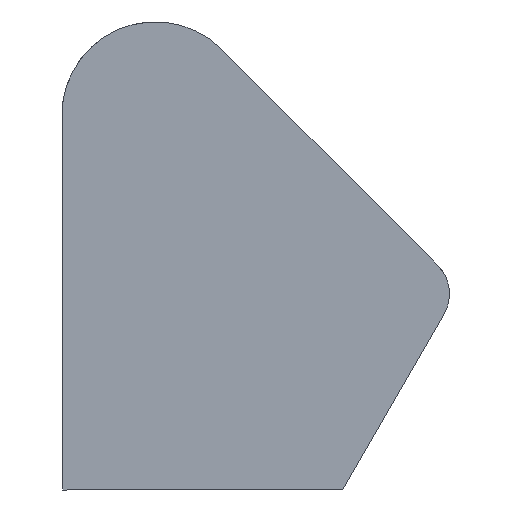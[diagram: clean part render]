
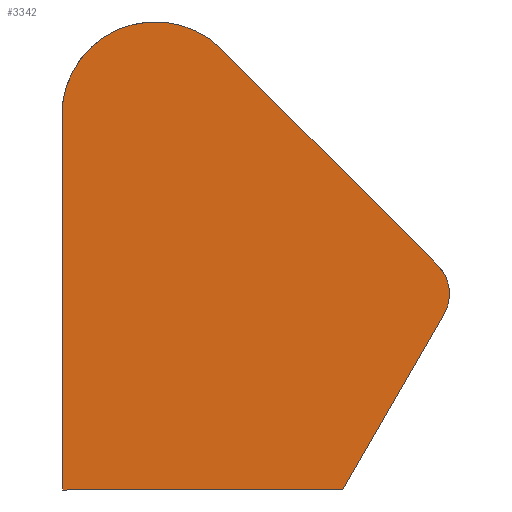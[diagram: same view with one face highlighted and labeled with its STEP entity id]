
A CAD part, left-side view. The second image highlights one B-rep face of the part: STEP entity #3342.
In plain terms, the highlighted planar face has unit normal (-1, 0, 0).
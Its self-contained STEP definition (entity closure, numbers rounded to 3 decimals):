
#27 = ORIENTED_EDGE ( 'NONE', *, *, #4437, .T. ) ;
#73 = VERTEX_POINT ( 'NONE', #2416 ) ;
#168 = AXIS2_PLACEMENT_3D ( 'NONE', #3975, #3948, #3752 ) ;
#245 = VERTEX_POINT ( 'NONE', #1286 ) ;
#307 = VERTEX_POINT ( 'NONE', #3461 ) ;
#322 = CIRCLE ( 'NONE', #1682, 0.25 ) ;
#325 = ORIENTED_EDGE ( 'NONE', *, *, #4262, .T. ) ;
#392 = CARTESIAN_POINT ( 'NONE',  ( -130., 0., 0. ) ) ;
#395 = ORIENTED_EDGE ( 'NONE', *, *, #418, .F. ) ;
#418 = EDGE_CURVE ( 'NONE', #307, #245, #1121, .T. ) ;
#430 = VECTOR ( 'NONE', #1399, 1000. ) ;
#702 = DIRECTION ( 'NONE',  ( -1., 0., 0. ) ) ;
#732 = DIRECTION ( 'NONE',  ( 0., 0., 1. ) ) ;
#1121 = LINE ( 'NONE', #2551, #2897 ) ;
#1263 = ORIENTED_EDGE ( 'NONE', *, *, #3312, .F. ) ;
#1286 = CARTESIAN_POINT ( 'NONE',  ( -130., -69.272, -36.741 ) ) ;
#1381 = EDGE_CURVE ( 'NONE', #2194, #73, #3940, .T. ) ;
#1395 = VERTEX_POINT ( 'NONE', #3977 ) ;
#1399 = DIRECTION ( 'NONE',  ( 0., 0.5, -0.866 ) ) ;
#1408 = CIRCLE ( 'NONE', #2217, 10. ) ;
#1638 = DIRECTION ( 'NONE',  ( -1., 0., 0. ) ) ;
#1682 = AXIS2_PLACEMENT_3D ( 'NONE', #3756, #1638, #4117 ) ;
#1688 = FACE_OUTER_BOUND ( 'NONE', #2920, .T. ) ;
#1760 = PLANE ( 'NONE',  #3917 ) ;
#1776 = CARTESIAN_POINT ( 'NONE',  ( -130., -70.861, -48.812 ) ) ;
#2173 = DIRECTION ( 'NONE',  ( 0., 1., 0. ) ) ;
#2194 = VERTEX_POINT ( 'NONE', #2650 ) ;
#2213 = EDGE_CURVE ( 'NONE', #307, #73, #2953, .T. ) ;
#2217 = AXIS2_PLACEMENT_3D ( 'NONE', #2820, #702, #3176 ) ;
#2228 = CARTESIAN_POINT ( 'NONE',  ( -130., 0., -92. ) ) ;
#2314 = EDGE_CURVE ( 'NONE', #1395, #2194, #4456, .T. ) ;
#2416 = CARTESIAN_POINT ( 'NONE',  ( -130., 22.804, 3. ) ) ;
#2462 = DIRECTION ( 'NONE',  ( 0., -0.707, -0.707 ) ) ;
#2493 = VECTOR ( 'NONE', #2173, 1000. ) ;
#2551 = CARTESIAN_POINT ( 'NONE',  ( -130., -16.263, 16.264 ) ) ;
#2650 = CARTESIAN_POINT ( 'NONE',  ( -130., 22.804, -92. ) ) ;
#2820 = CARTESIAN_POINT ( 'NONE',  ( -130., -62.2, -43.812 ) ) ;
#2856 = DIRECTION ( 'NONE',  ( -1., 0., 0. ) ) ;
#2897 = VECTOR ( 'NONE', #2462, 1000. ) ;
#2920 = EDGE_LOOP ( 'NONE', ( #3672, #3570, #4220, #325, #1263, #27, #395 ) ) ;
#2953 = CIRCLE ( 'NONE', #168, 23. ) ;
#3176 = DIRECTION ( 'NONE',  ( 0., 0., 1. ) ) ;
#3312 = EDGE_CURVE ( 'NONE', #3359, #3832, #4393, .T. ) ;
#3342 = ADVANCED_FACE ( 'NONE', ( #1688 ), #1760, .T. ) ;
#3359 = VERTEX_POINT ( 'NONE', #1776 ) ;
#3461 = CARTESIAN_POINT ( 'NONE',  ( -130., -16.263, 16.263 ) ) ;
#3511 = CARTESIAN_POINT ( 'NONE',  ( -130., -74.282, -42.887 ) ) ;
#3570 = ORIENTED_EDGE ( 'NONE', *, *, #1381, .F. ) ;
#3672 = ORIENTED_EDGE ( 'NONE', *, *, #2213, .T. ) ;
#3752 = DIRECTION ( 'NONE',  ( 0., 0., 1. ) ) ;
#3756 = CARTESIAN_POINT ( 'NONE',  ( -130., -45.782, -91.75 ) ) ;
#3832 = VERTEX_POINT ( 'NONE', #4496 ) ;
#3917 = AXIS2_PLACEMENT_3D ( 'NONE', #392, #2856, #732 ) ;
#3940 = LINE ( 'NONE', #4011, #4055 ) ;
#3948 = DIRECTION ( 'NONE',  ( -1., 0., 0. ) ) ;
#3975 = CARTESIAN_POINT ( 'NONE',  ( -130., 0., 0. ) ) ;
#3977 = CARTESIAN_POINT ( 'NONE',  ( -130., -45.782, -92. ) ) ;
#4011 = CARTESIAN_POINT ( 'NONE',  ( -130., 22.804, 0. ) ) ;
#4055 = VECTOR ( 'NONE', #4549, 1000. ) ;
#4117 = DIRECTION ( 'NONE',  ( 0., 0., 1. ) ) ;
#4220 = ORIENTED_EDGE ( 'NONE', *, *, #2314, .F. ) ;
#4262 = EDGE_CURVE ( 'NONE', #1395, #3832, #322, .T. ) ;
#4393 = LINE ( 'NONE', #3511, #430 ) ;
#4437 = EDGE_CURVE ( 'NONE', #3359, #245, #1408, .T. ) ;
#4456 = LINE ( 'NONE', #2228, #2493 ) ;
#4496 = CARTESIAN_POINT ( 'NONE',  ( -130., -45.998, -91.875 ) ) ;
#4549 = DIRECTION ( 'NONE',  ( 0., 0., 1. ) ) ;
